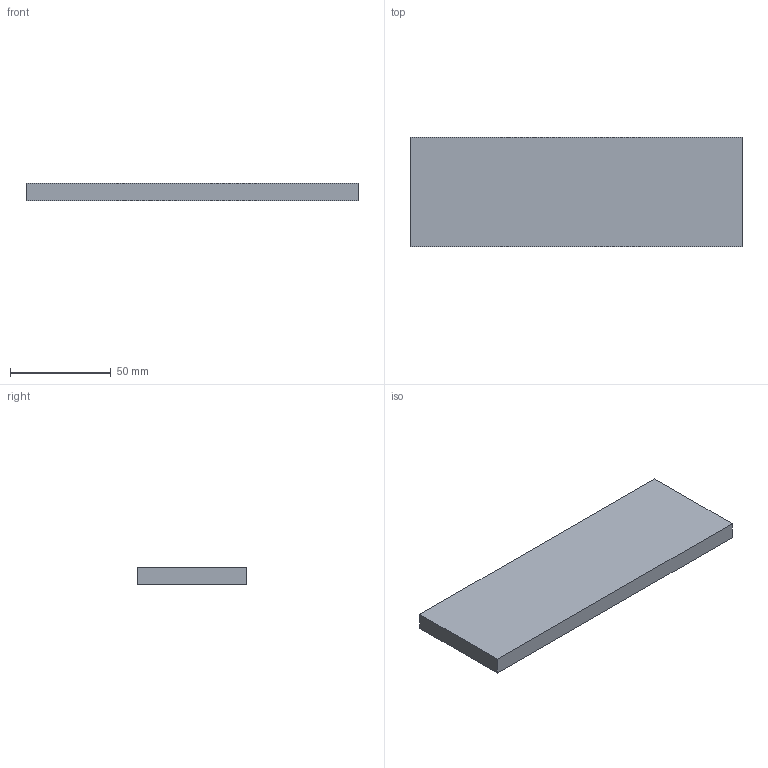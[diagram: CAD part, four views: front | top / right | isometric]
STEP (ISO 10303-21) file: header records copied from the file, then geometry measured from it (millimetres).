
FILE_DESCRIPTION(('Open CASCADE Model'),'2;1');
FILE_NAME('Open CASCADE Shape Model','2026-09-29T12:47:59',('Author'),( 'Open CASCADE'),'Open CASCADE STEP processor 7.9','Open CASCADE 7.9' ,'Unknown');
FILE_SCHEMA(('AUTOMOTIVE_DESIGN { 1 0 10303 214 1 1 1 1 }'));
Length unit declared in the file: millimetre
Products named in the file (1): Open CASCADE STEP translator 7.9 2
Bounding box: 165.1 x 54.6 x 8.5 mm (x, y, z)
Volume: 76622.9 mm3; surface area: 21763.8 mm2
Topology: 1 solids, 1 shells, 6 faces, 12 edges, 8 vertices
Faces by surface type: plane 6
Entity records: 322 total; most frequent: CARTESIAN_POINT 51, DIRECTION 50, LINE 36, VECTOR 36, ORIENTED_EDGE 24, PCURVE 24, DEFINITIONAL_REPRESENTATION 24, EDGE_CURVE 12
